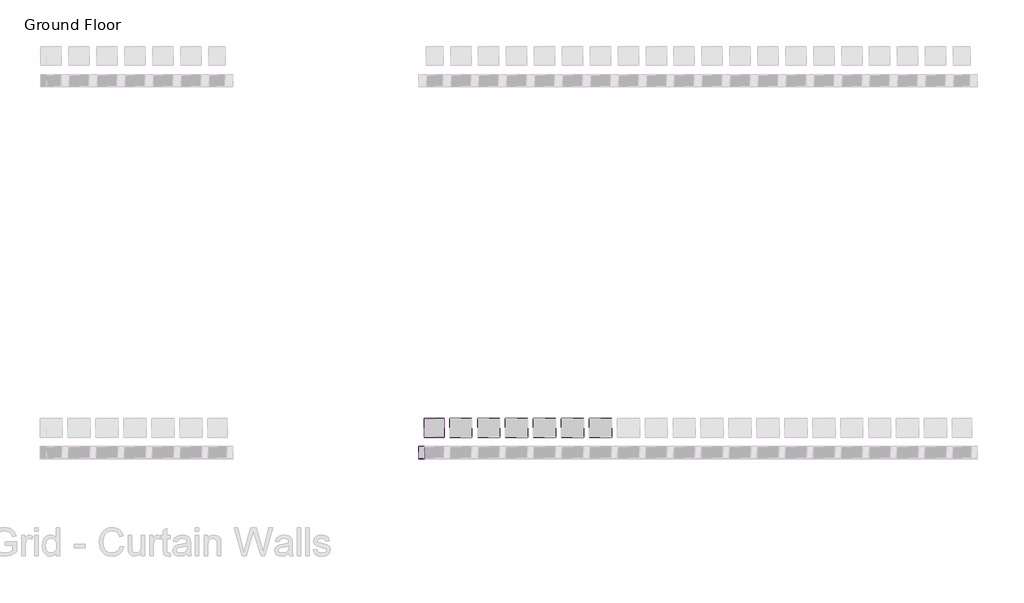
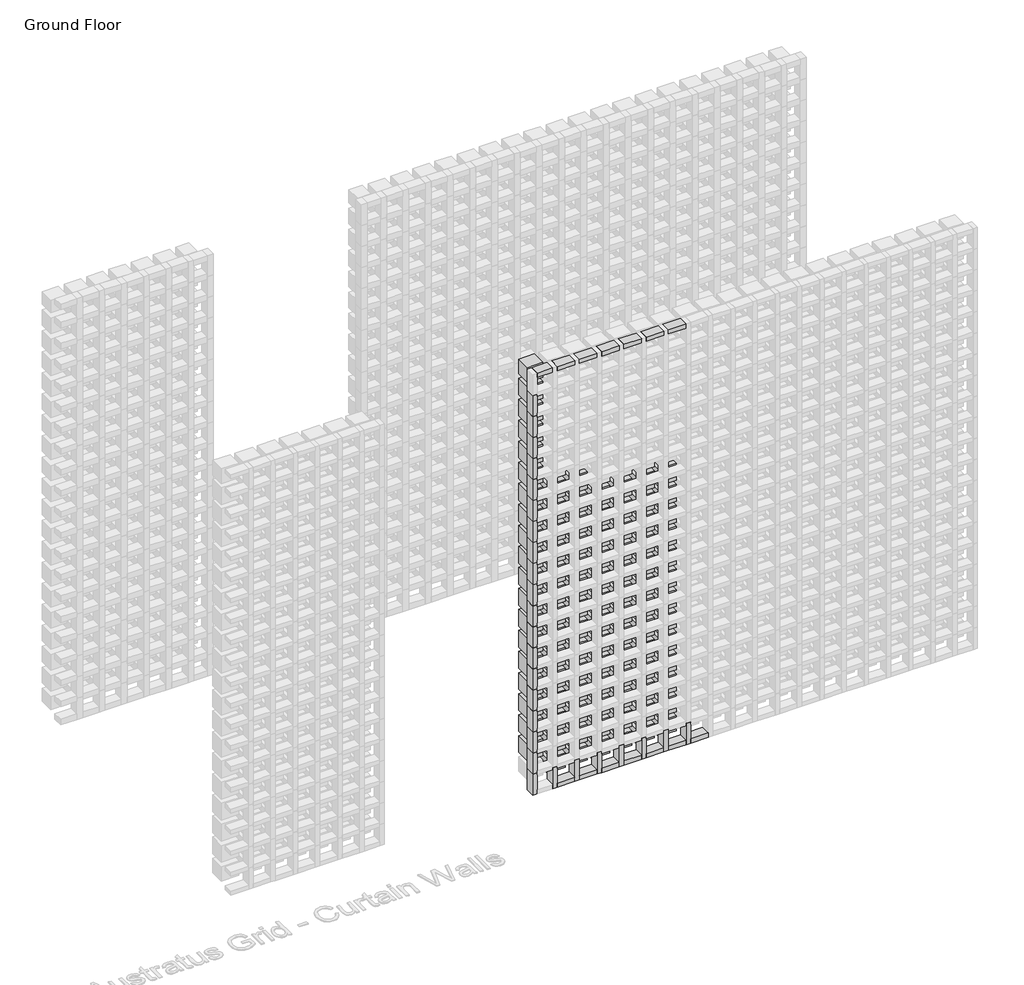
# One storey, part 55 of 350: 99 plates, 40 members.
"""IFC4 building model written with IfcOpenShell, lengths in millimetres."""

from ifc_helpers import new_model, si_unit, origin, place, context, project, spatial, transform, mapped, element, save
from components import rectangular_mullion_5b501421, rectangular_mullion_f2fcf417, rectangular_mullion_51467dcc, rectangular_mullion_d4c9a775, rectangular_mullion_ed01f2b6, empty_system_panel_empty_a57e421f, empty_system_panel_empty_2f71b3a5, empty_system_panel_empty_fe50b430, empty_system_panel_empty_7a4fbe29

model = new_model("IFC4")

# Units and contexts
model_context = context("Model", 3, world=origin())
ifc_project = project(units=[si_unit("LENGTHUNIT", "METRE", prefix="MILLI")], contexts=[model_context])

# Site, building, storey
site = spatial("IfcSite", under=ifc_project)
building = spatial("IfcBuilding", under=site)
storey = spatial("IfcBuildingStorey", under=building, Name="Ground Floor", Elevation=0.0)

# Members
placement = place(None, origin())
rectangular_mullion_shape = rectangular_mullion_5b501421(model_context)
element("IfcMember", 1, ObjectType="Rectangular Mullion : Batten_Timber_Modinex_Austratus_Grid_Fascia_30x65_Blackbutt", at=placement, inside=storey, context=model_context, shape_type="MappedRepresentation", body=[
    mapped(rectangular_mullion_shape, transform((6066.4361642, 38968.2978302, 0.0), x_axis=(1.0, 0.0, 0.0), y_axis=(0.0, -1.0, 0.0), z_axis=(0.0, 0.0, -1.0))),
])
element("IfcMember", 2, ObjectType="Rectangular Mullion : Batten_Timber_Modinex_Austratus_Grid_Fascia_30x65_Blackbutt", at=placement, inside=storey, context=model_context, shape_type="MappedRepresentation", body=[
    mapped(rectangular_mullion_shape, transform((6216.4361642, 38968.2978302, 0.0), x_axis=(1.0, 0.0, 0.0), y_axis=(0.0, -1.0, 0.0), z_axis=(0.0, 0.0, -1.0))),
])
element("IfcMember", 3, ObjectType="Rectangular Mullion : Batten_Timber_Modinex_Austratus_Grid_Fascia_30x65_Blackbutt", at=placement, inside=storey, context=model_context, shape_type="MappedRepresentation", body=[
    mapped(rectangular_mullion_shape, transform((6366.4361642, 38968.2978302, 0.0), x_axis=(1.0, 0.0, 0.0), y_axis=(0.0, -1.0, 0.0), z_axis=(0.0, 0.0, -1.0))),
])
element("IfcMember", 4, ObjectType="Rectangular Mullion : Batten_Timber_Modinex_Austratus_Grid_Fascia_30x65_Blackbutt", at=placement, inside=storey, context=model_context, shape_type="MappedRepresentation", body=[
    mapped(rectangular_mullion_shape, transform((6516.4361642, 38968.2978302, 0.0), x_axis=(1.0, 0.0, 0.0), y_axis=(0.0, -1.0, 0.0), z_axis=(0.0, 0.0, -1.0))),
])
element("IfcMember", 5, ObjectType="Rectangular Mullion : Batten_Timber_Modinex_Austratus_Grid_Fascia_30x65_Blackbutt", at=placement, inside=storey, context=model_context, shape_type="MappedRepresentation", body=[
    mapped(rectangular_mullion_shape, transform((6666.4361642, 38968.2978302, 0.0), x_axis=(1.0, 0.0, 0.0), y_axis=(0.0, -1.0, 0.0), z_axis=(0.0, 0.0, -1.0))),
])
element("IfcMember", 6, ObjectType="Rectangular Mullion : Batten_Timber_Modinex_Austratus_Grid_Fascia_30x65_Blackbutt", at=placement, inside=storey, context=model_context, shape_type="MappedRepresentation", body=[
    mapped(rectangular_mullion_shape, transform((6816.4361642, 38968.2978302, 0.0), x_axis=(1.0, 0.0, 0.0), y_axis=(0.0, -1.0, 0.0), z_axis=(0.0, 0.0, -1.0))),
])
element("IfcMember", 7, ObjectType="Rectangular Mullion : Batten_Timber_Modinex_Austratus_Grid_Fascia_30x65_Blackbutt", at=placement, inside=storey, context=model_context, shape_type="MappedRepresentation", body=[
    mapped(rectangular_mullion_shape, transform((6966.4361642, 38968.2978302, 0.0), x_axis=(1.0, 0.0, 0.0), y_axis=(0.0, -1.0, 0.0), z_axis=(0.0, 0.0, -1.0))),
])
rectangular_mullion_2_shape = rectangular_mullion_f2fcf417(model_context)
element("IfcMember", 8, ObjectType="Rectangular Mullion : Batten_Timber_Modinex_Austratus_Grid_Fascia_30x65_Blackbutt", at=placement, inside=storey, context=model_context, shape_type="MappedRepresentation", body=[
    mapped(rectangular_mullion_2_shape, transform((6051.4361642, 38968.2978302, 3000.0), x_axis=(0.0, 0.0, 1.0), y_axis=(0.0, -1.0, 0.0), z_axis=(1.0, 0.0, 0.0))),
])
rectangular_mullion_3_shape = rectangular_mullion_51467dcc(model_context)
element("IfcMember", 9, ObjectType="Rectangular Mullion : Batten_Timber_Modinex_Austratus_Grid_Fascia_30x65_Blackbutt", at=placement, inside=storey, context=model_context, shape_type="MappedRepresentation", body=[
    mapped(rectangular_mullion_3_shape, transform((6201.4361642, 38968.2978302, 3000.0), x_axis=(0.0, 0.0, 1.0), y_axis=(0.0, -1.0, 0.0), z_axis=(1.0, 0.0, 0.0))),
])
element("IfcMember", 10, ObjectType="Rectangular Mullion : Batten_Timber_Modinex_Austratus_Grid_Fascia_30x65_Blackbutt", at=placement, inside=storey, context=model_context, shape_type="MappedRepresentation", body=[
    mapped(rectangular_mullion_3_shape, transform((6351.4361642, 38968.2978302, 3000.0), x_axis=(0.0, 0.0, 1.0), y_axis=(0.0, -1.0, 0.0), z_axis=(1.0, 0.0, 0.0))),
])
element("IfcMember", 11, ObjectType="Rectangular Mullion : Batten_Timber_Modinex_Austratus_Grid_Fascia_30x65_Blackbutt", at=placement, inside=storey, context=model_context, shape_type="MappedRepresentation", body=[
    mapped(rectangular_mullion_3_shape, transform((6501.4361642, 38968.2978302, 3000.0), x_axis=(0.0, 0.0, 1.0), y_axis=(0.0, -1.0, 0.0), z_axis=(1.0, 0.0, 0.0))),
])
element("IfcMember", 12, ObjectType="Rectangular Mullion : Batten_Timber_Modinex_Austratus_Grid_Fascia_30x65_Blackbutt", at=placement, inside=storey, context=model_context, shape_type="MappedRepresentation", body=[
    mapped(rectangular_mullion_3_shape, transform((6651.4361642, 38968.2978302, 3000.0), x_axis=(0.0, 0.0, 1.0), y_axis=(0.0, -1.0, 0.0), z_axis=(1.0, 0.0, 0.0))),
])
element("IfcMember", 13, ObjectType="Rectangular Mullion : Batten_Timber_Modinex_Austratus_Grid_Fascia_30x65_Blackbutt", at=placement, inside=storey, context=model_context, shape_type="MappedRepresentation", body=[
    mapped(rectangular_mullion_3_shape, transform((6801.4361642, 38968.2978302, 3000.0), x_axis=(0.0, 0.0, 1.0), y_axis=(0.0, -1.0, 0.0), z_axis=(1.0, 0.0, 0.0))),
])
element("IfcMember", 14, ObjectType="Rectangular Mullion : Batten_Timber_Modinex_Austratus_Grid_Fascia_30x65_Blackbutt", at=placement, inside=storey, context=model_context, shape_type="MappedRepresentation", body=[
    mapped(rectangular_mullion_3_shape, transform((6951.4361642, 38968.2978302, 3000.0), x_axis=(0.0, 0.0, 1.0), y_axis=(0.0, -1.0, 0.0), z_axis=(1.0, 0.0, 0.0))),
])
rectangular_mullion_4_shape = rectangular_mullion_d4c9a775(model_context)
element("IfcMember", 15, ObjectType="Rectangular Mullion : Batten_Timber_Modinex_Austratus_Grid_Fascia_30x65_Blackbutt", at=placement, inside=storey, context=model_context, shape_type="MappedRepresentation", body=[
    mapped(rectangular_mullion_4_shape, transform((6081.4361642, 38968.2978302, 0.0), x_axis=(0.0, 0.0, -1.0), y_axis=(0.0, -1.0, 0.0), z_axis=(-1.0, 0.0, 0.0))),
])
element("IfcMember", 16, ObjectType="Rectangular Mullion : Batten_Timber_Modinex_Austratus_Grid_Fascia_30x65_Blackbutt", at=placement, inside=storey, context=model_context, shape_type="MappedRepresentation", body=[
    mapped(rectangular_mullion_4_shape, transform((6231.4361642, 38968.2978302, 0.0), x_axis=(0.0, 0.0, -1.0), y_axis=(0.0, -1.0, 0.0), z_axis=(-1.0, 0.0, 0.0))),
])
element("IfcMember", 17, ObjectType="Rectangular Mullion : Batten_Timber_Modinex_Austratus_Grid_Fascia_30x65_Blackbutt", at=placement, inside=storey, context=model_context, shape_type="MappedRepresentation", body=[
    mapped(rectangular_mullion_4_shape, transform((6381.4361642, 38968.2978302, 0.0), x_axis=(0.0, 0.0, -1.0), y_axis=(0.0, -1.0, 0.0), z_axis=(-1.0, 0.0, 0.0))),
])
element("IfcMember", 18, ObjectType="Rectangular Mullion : Batten_Timber_Modinex_Austratus_Grid_Fascia_30x65_Blackbutt", at=placement, inside=storey, context=model_context, shape_type="MappedRepresentation", body=[
    mapped(rectangular_mullion_4_shape, transform((6531.4361642, 38968.2978302, 0.0), x_axis=(0.0, 0.0, -1.0), y_axis=(0.0, -1.0, 0.0), z_axis=(-1.0, 0.0, 0.0))),
])
element("IfcMember", 19, ObjectType="Rectangular Mullion : Batten_Timber_Modinex_Austratus_Grid_Fascia_30x65_Blackbutt", at=placement, inside=storey, context=model_context, shape_type="MappedRepresentation", body=[
    mapped(rectangular_mullion_4_shape, transform((6681.4361642, 38968.2978302, 0.0), x_axis=(0.0, 0.0, -1.0), y_axis=(0.0, -1.0, 0.0), z_axis=(-1.0, 0.0, 0.0))),
])
element("IfcMember", 20, ObjectType="Rectangular Mullion : Batten_Timber_Modinex_Austratus_Grid_Fascia_30x65_Blackbutt", at=placement, inside=storey, context=model_context, shape_type="MappedRepresentation", body=[
    mapped(rectangular_mullion_4_shape, transform((6831.4361642, 38968.2978302, 0.0), x_axis=(0.0, 0.0, -1.0), y_axis=(0.0, -1.0, 0.0), z_axis=(-1.0, 0.0, 0.0))),
])
element("IfcMember", 21, ObjectType="Rectangular Mullion : Batten_Timber_Modinex_Austratus_Grid_Fascia_30x65_Blackbutt", at=placement, inside=storey, context=model_context, shape_type="MappedRepresentation", body=[
    mapped(rectangular_mullion_4_shape, transform((6981.4361642, 38968.2978302, 0.0), x_axis=(0.0, 0.0, -1.0), y_axis=(0.0, -1.0, 0.0), z_axis=(-1.0, 0.0, 0.0))),
])
rectangular_mullion_5_shape = rectangular_mullion_ed01f2b6(model_context)
element("IfcMember", 22, ObjectType="Rectangular Mullion : Batten_Timber_Modinex_Austratus_Grid_Fascia_30x65_Blackbutt", at=placement, inside=storey, context=model_context, shape_type="MappedRepresentation", body=[
    mapped(rectangular_mullion_5_shape, transform((5916.4361639, 38968.2978302, 150.0), x_axis=(-1.0, 0.0, 0.0), y_axis=(0.0, -1.0, 0.0), z_axis=(0.0, 0.0, 1.0))),
])
element("IfcMember", 23, ObjectType="Rectangular Mullion : Batten_Timber_Modinex_Austratus_Grid_Fascia_30x65_Blackbutt", at=placement, inside=storey, context=model_context, shape_type="MappedRepresentation", body=[
    mapped(rectangular_mullion_5_shape, transform((5916.4361639, 38968.2978302, 300.0), x_axis=(-1.0, 0.0, 0.0), y_axis=(0.0, -1.0, 0.0), z_axis=(0.0, 0.0, 1.0))),
])
element("IfcMember", 24, ObjectType="Rectangular Mullion : Batten_Timber_Modinex_Austratus_Grid_Fascia_30x65_Blackbutt", at=placement, inside=storey, context=model_context, shape_type="MappedRepresentation", body=[
    mapped(rectangular_mullion_5_shape, transform((5916.4361639, 38968.2978302, 450.0), x_axis=(-1.0, 0.0, 0.0), y_axis=(0.0, -1.0, 0.0), z_axis=(0.0, 0.0, 1.0))),
])
element("IfcMember", 25, ObjectType="Rectangular Mullion : Batten_Timber_Modinex_Austratus_Grid_Fascia_30x65_Blackbutt", at=placement, inside=storey, context=model_context, shape_type="MappedRepresentation", body=[
    mapped(rectangular_mullion_5_shape, transform((5916.4361639, 38968.2978302, 600.0), x_axis=(-1.0, 0.0, 0.0), y_axis=(0.0, -1.0, 0.0), z_axis=(0.0, 0.0, 1.0))),
])
element("IfcMember", 26, ObjectType="Rectangular Mullion : Batten_Timber_Modinex_Austratus_Grid_Fascia_30x65_Blackbutt", at=placement, inside=storey, context=model_context, shape_type="MappedRepresentation", body=[
    mapped(rectangular_mullion_5_shape, transform((5916.4361639, 38968.2978302, 750.0), x_axis=(-1.0, 0.0, 0.0), y_axis=(0.0, -1.0, 0.0), z_axis=(0.0, 0.0, 1.0))),
])
element("IfcMember", 27, ObjectType="Rectangular Mullion : Batten_Timber_Modinex_Austratus_Grid_Fascia_30x65_Blackbutt", at=placement, inside=storey, context=model_context, shape_type="MappedRepresentation", body=[
    mapped(rectangular_mullion_5_shape, transform((5916.4361639, 38968.2978302, 900.0), x_axis=(-1.0, 0.0, 0.0), y_axis=(0.0, -1.0, 0.0), z_axis=(0.0, 0.0, 1.0))),
])
element("IfcMember", 28, ObjectType="Rectangular Mullion : Batten_Timber_Modinex_Austratus_Grid_Fascia_30x65_Blackbutt", at=placement, inside=storey, context=model_context, shape_type="MappedRepresentation", body=[
    mapped(rectangular_mullion_5_shape, transform((5916.4361639, 38968.2978302, 1050.0), x_axis=(-1.0, 0.0, 0.0), y_axis=(0.0, -1.0, 0.0), z_axis=(0.0, 0.0, 1.0))),
])
element("IfcMember", 29, ObjectType="Rectangular Mullion : Batten_Timber_Modinex_Austratus_Grid_Fascia_30x65_Blackbutt", at=placement, inside=storey, context=model_context, shape_type="MappedRepresentation", body=[
    mapped(rectangular_mullion_5_shape, transform((5916.4361639, 38968.2978302, 1200.0), x_axis=(-1.0, 0.0, 0.0), y_axis=(0.0, -1.0, 0.0), z_axis=(0.0, 0.0, 1.0))),
])
element("IfcMember", 30, ObjectType="Rectangular Mullion : Batten_Timber_Modinex_Austratus_Grid_Fascia_30x65_Blackbutt", at=placement, inside=storey, context=model_context, shape_type="MappedRepresentation", body=[
    mapped(rectangular_mullion_5_shape, transform((5916.4361639, 38968.2978302, 1350.0), x_axis=(-1.0, 0.0, 0.0), y_axis=(0.0, -1.0, 0.0), z_axis=(0.0, 0.0, 1.0))),
])
element("IfcMember", 31, ObjectType="Rectangular Mullion : Batten_Timber_Modinex_Austratus_Grid_Fascia_30x65_Blackbutt", at=placement, inside=storey, context=model_context, shape_type="MappedRepresentation", body=[
    mapped(rectangular_mullion_5_shape, transform((5916.4361639, 38968.2978302, 1500.0), x_axis=(-1.0, 0.0, 0.0), y_axis=(0.0, -1.0, 0.0), z_axis=(0.0, 0.0, 1.0))),
])
element("IfcMember", 32, ObjectType="Rectangular Mullion : Batten_Timber_Modinex_Austratus_Grid_Fascia_30x65_Blackbutt", at=placement, inside=storey, context=model_context, shape_type="MappedRepresentation", body=[
    mapped(rectangular_mullion_5_shape, transform((5916.4361639, 38968.2978302, 1650.0), x_axis=(-1.0, 0.0, 0.0), y_axis=(0.0, -1.0, 0.0), z_axis=(0.0, 0.0, 1.0))),
])
element("IfcMember", 33, ObjectType="Rectangular Mullion : Batten_Timber_Modinex_Austratus_Grid_Fascia_30x65_Blackbutt", at=placement, inside=storey, context=model_context, shape_type="MappedRepresentation", body=[
    mapped(rectangular_mullion_5_shape, transform((5916.4361639, 38968.2978302, 1800.0), x_axis=(-1.0, 0.0, 0.0), y_axis=(0.0, -1.0, 0.0), z_axis=(0.0, 0.0, 1.0))),
])
element("IfcMember", 34, ObjectType="Rectangular Mullion : Batten_Timber_Modinex_Austratus_Grid_Fascia_30x65_Blackbutt", at=placement, inside=storey, context=model_context, shape_type="MappedRepresentation", body=[
    mapped(rectangular_mullion_5_shape, transform((5916.4361639, 38968.2978302, 1950.0), x_axis=(-1.0, 0.0, 0.0), y_axis=(0.0, -1.0, 0.0), z_axis=(0.0, 0.0, 1.0))),
])
element("IfcMember", 35, ObjectType="Rectangular Mullion : Batten_Timber_Modinex_Austratus_Grid_Fascia_30x65_Blackbutt", at=placement, inside=storey, context=model_context, shape_type="MappedRepresentation", body=[
    mapped(rectangular_mullion_5_shape, transform((5916.4361639, 38968.2978302, 2100.0), x_axis=(-1.0, 0.0, 0.0), y_axis=(0.0, -1.0, 0.0), z_axis=(0.0, 0.0, 1.0))),
])
element("IfcMember", 36, ObjectType="Rectangular Mullion : Batten_Timber_Modinex_Austratus_Grid_Fascia_30x65_Blackbutt", at=placement, inside=storey, context=model_context, shape_type="MappedRepresentation", body=[
    mapped(rectangular_mullion_5_shape, transform((5916.4361639, 38968.2978302, 2250.0), x_axis=(-1.0, 0.0, 0.0), y_axis=(0.0, -1.0, 0.0), z_axis=(0.0, 0.0, 1.0))),
])
element("IfcMember", 37, ObjectType="Rectangular Mullion : Batten_Timber_Modinex_Austratus_Grid_Fascia_30x65_Blackbutt", at=placement, inside=storey, context=model_context, shape_type="MappedRepresentation", body=[
    mapped(rectangular_mullion_5_shape, transform((5916.4361639, 38968.2978302, 2400.0), x_axis=(-1.0, 0.0, 0.0), y_axis=(0.0, -1.0, 0.0), z_axis=(0.0, 0.0, 1.0))),
])
element("IfcMember", 38, ObjectType="Rectangular Mullion : Batten_Timber_Modinex_Austratus_Grid_Fascia_30x65_Blackbutt", at=placement, inside=storey, context=model_context, shape_type="MappedRepresentation", body=[
    mapped(rectangular_mullion_5_shape, transform((5916.4361639, 38968.2978302, 2550.0), x_axis=(-1.0, 0.0, 0.0), y_axis=(0.0, -1.0, 0.0), z_axis=(0.0, 0.0, 1.0))),
])
element("IfcMember", 39, ObjectType="Rectangular Mullion : Batten_Timber_Modinex_Austratus_Grid_Fascia_30x65_Blackbutt", at=placement, inside=storey, context=model_context, shape_type="MappedRepresentation", body=[
    mapped(rectangular_mullion_5_shape, transform((5916.4361639, 38968.2978302, 2700.0), x_axis=(-1.0, 0.0, 0.0), y_axis=(0.0, -1.0, 0.0), z_axis=(0.0, 0.0, 1.0))),
])
element("IfcMember", 40, ObjectType="Rectangular Mullion : Batten_Timber_Modinex_Austratus_Grid_Fascia_30x65_Blackbutt", at=placement, inside=storey, context=model_context, shape_type="MappedRepresentation", body=[
    mapped(rectangular_mullion_5_shape, transform((5916.4361639, 38968.2978302, 2850.0), x_axis=(-1.0, 0.0, 0.0), y_axis=(0.0, -1.0, 0.0), z_axis=(0.0, 0.0, 1.0))),
])

# Plates
empty_system_panel_empty_shape = empty_system_panel_empty_a57e421f(model_context)
element("IfcPlate", 41, ObjectType="Empty System Panel : Empty", at=placement, inside=storey, context=model_context, shape_type="MappedRepresentation", body=[
    mapped(empty_system_panel_empty_shape, transform((6141.4361642, 38968.2978302, 165.0), x_axis=(1.0, 0.0, 0.0), y_axis=(0.0, 1.0, 0.0), z_axis=(0.0, 0.0, 1.0))),
])
element("IfcPlate", 42, ObjectType="Empty System Panel : Empty", at=placement, inside=storey, context=model_context, shape_type="MappedRepresentation", body=[
    mapped(empty_system_panel_empty_shape, transform((6291.4361642, 38968.2978302, 165.0), x_axis=(1.0, 0.0, 0.0), y_axis=(0.0, 1.0, 0.0), z_axis=(0.0, 0.0, 1.0))),
])
element("IfcPlate", 43, ObjectType="Empty System Panel : Empty", at=placement, inside=storey, context=model_context, shape_type="MappedRepresentation", body=[
    mapped(empty_system_panel_empty_shape, transform((6441.4361642, 38968.2978302, 165.0), x_axis=(1.0, 0.0, 0.0), y_axis=(0.0, 1.0, 0.0), z_axis=(0.0, 0.0, 1.0))),
])
element("IfcPlate", 44, ObjectType="Empty System Panel : Empty", at=placement, inside=storey, context=model_context, shape_type="MappedRepresentation", body=[
    mapped(empty_system_panel_empty_shape, transform((6591.4361642, 38968.2978302, 165.0), x_axis=(1.0, 0.0, 0.0), y_axis=(0.0, 1.0, 0.0), z_axis=(0.0, 0.0, 1.0))),
])
element("IfcPlate", 45, ObjectType="Empty System Panel : Empty", at=placement, inside=storey, context=model_context, shape_type="MappedRepresentation", body=[
    mapped(empty_system_panel_empty_shape, transform((6741.4361642, 38968.2978302, 165.0), x_axis=(1.0, 0.0, 0.0), y_axis=(0.0, 1.0, 0.0), z_axis=(0.0, 0.0, 1.0))),
])
element("IfcPlate", 46, ObjectType="Empty System Panel : Empty", at=placement, inside=storey, context=model_context, shape_type="MappedRepresentation", body=[
    mapped(empty_system_panel_empty_shape, transform((6891.4361642, 38968.2978302, 165.0), x_axis=(1.0, 0.0, 0.0), y_axis=(0.0, 1.0, 0.0), z_axis=(0.0, 0.0, 1.0))),
])
element("IfcPlate", 47, ObjectType="Empty System Panel : Empty", at=placement, inside=storey, context=model_context, shape_type="MappedRepresentation", body=[
    mapped(empty_system_panel_empty_shape, transform((6141.4361642, 38968.2978302, 315.0), x_axis=(1.0, 0.0, 0.0), y_axis=(0.0, 1.0, 0.0), z_axis=(0.0, 0.0, 1.0))),
])
element("IfcPlate", 48, ObjectType="Empty System Panel : Empty", at=placement, inside=storey, context=model_context, shape_type="MappedRepresentation", body=[
    mapped(empty_system_panel_empty_shape, transform((6291.4361642, 38968.2978302, 315.0), x_axis=(1.0, 0.0, 0.0), y_axis=(0.0, 1.0, 0.0), z_axis=(0.0, 0.0, 1.0))),
])
element("IfcPlate", 49, ObjectType="Empty System Panel : Empty", at=placement, inside=storey, context=model_context, shape_type="MappedRepresentation", body=[
    mapped(empty_system_panel_empty_shape, transform((6441.4361642, 38968.2978302, 315.0), x_axis=(1.0, 0.0, 0.0), y_axis=(0.0, 1.0, 0.0), z_axis=(0.0, 0.0, 1.0))),
])
element("IfcPlate", 50, ObjectType="Empty System Panel : Empty", at=placement, inside=storey, context=model_context, shape_type="MappedRepresentation", body=[
    mapped(empty_system_panel_empty_shape, transform((6591.4361642, 38968.2978302, 315.0), x_axis=(1.0, 0.0, 0.0), y_axis=(0.0, 1.0, 0.0), z_axis=(0.0, 0.0, 1.0))),
])
element("IfcPlate", 51, ObjectType="Empty System Panel : Empty", at=placement, inside=storey, context=model_context, shape_type="MappedRepresentation", body=[
    mapped(empty_system_panel_empty_shape, transform((6741.4361642, 38968.2978302, 315.0), x_axis=(1.0, 0.0, 0.0), y_axis=(0.0, 1.0, 0.0), z_axis=(0.0, 0.0, 1.0))),
])
element("IfcPlate", 52, ObjectType="Empty System Panel : Empty", at=placement, inside=storey, context=model_context, shape_type="MappedRepresentation", body=[
    mapped(empty_system_panel_empty_shape, transform((6891.4361642, 38968.2978302, 315.0), x_axis=(1.0, 0.0, 0.0), y_axis=(0.0, 1.0, 0.0), z_axis=(0.0, 0.0, 1.0))),
])
element("IfcPlate", 53, ObjectType="Empty System Panel : Empty", at=placement, inside=storey, context=model_context, shape_type="MappedRepresentation", body=[
    mapped(empty_system_panel_empty_shape, transform((6141.4361642, 38968.2978302, 465.0), x_axis=(1.0, 0.0, 0.0), y_axis=(0.0, 1.0, 0.0), z_axis=(0.0, 0.0, 1.0))),
])
element("IfcPlate", 54, ObjectType="Empty System Panel : Empty", at=placement, inside=storey, context=model_context, shape_type="MappedRepresentation", body=[
    mapped(empty_system_panel_empty_shape, transform((6291.4361642, 38968.2978302, 465.0), x_axis=(1.0, 0.0, 0.0), y_axis=(0.0, 1.0, 0.0), z_axis=(0.0, 0.0, 1.0))),
])
element("IfcPlate", 55, ObjectType="Empty System Panel : Empty", at=placement, inside=storey, context=model_context, shape_type="MappedRepresentation", body=[
    mapped(empty_system_panel_empty_shape, transform((6441.4361642, 38968.2978302, 465.0), x_axis=(1.0, 0.0, 0.0), y_axis=(0.0, 1.0, 0.0), z_axis=(0.0, 0.0, 1.0))),
])
element("IfcPlate", 56, ObjectType="Empty System Panel : Empty", at=placement, inside=storey, context=model_context, shape_type="MappedRepresentation", body=[
    mapped(empty_system_panel_empty_shape, transform((6591.4361642, 38968.2978302, 465.0), x_axis=(1.0, 0.0, 0.0), y_axis=(0.0, 1.0, 0.0), z_axis=(0.0, 0.0, 1.0))),
])
element("IfcPlate", 57, ObjectType="Empty System Panel : Empty", at=placement, inside=storey, context=model_context, shape_type="MappedRepresentation", body=[
    mapped(empty_system_panel_empty_shape, transform((6741.4361642, 38968.2978302, 465.0), x_axis=(1.0, 0.0, 0.0), y_axis=(0.0, 1.0, 0.0), z_axis=(0.0, 0.0, 1.0))),
])
element("IfcPlate", 58, ObjectType="Empty System Panel : Empty", at=placement, inside=storey, context=model_context, shape_type="MappedRepresentation", body=[
    mapped(empty_system_panel_empty_shape, transform((6891.4361642, 38968.2978302, 465.0), x_axis=(1.0, 0.0, 0.0), y_axis=(0.0, 1.0, 0.0), z_axis=(0.0, 0.0, 1.0))),
])
element("IfcPlate", 59, ObjectType="Empty System Panel : Empty", at=placement, inside=storey, context=model_context, shape_type="MappedRepresentation", body=[
    mapped(empty_system_panel_empty_shape, transform((6141.4361642, 38968.2978302, 615.0), x_axis=(1.0, 0.0, 0.0), y_axis=(0.0, 1.0, 0.0), z_axis=(0.0, 0.0, 1.0))),
])
element("IfcPlate", 60, ObjectType="Empty System Panel : Empty", at=placement, inside=storey, context=model_context, shape_type="MappedRepresentation", body=[
    mapped(empty_system_panel_empty_shape, transform((6291.4361642, 38968.2978302, 615.0), x_axis=(1.0, 0.0, 0.0), y_axis=(0.0, 1.0, 0.0), z_axis=(0.0, 0.0, 1.0))),
])
element("IfcPlate", 61, ObjectType="Empty System Panel : Empty", at=placement, inside=storey, context=model_context, shape_type="MappedRepresentation", body=[
    mapped(empty_system_panel_empty_shape, transform((6441.4361642, 38968.2978302, 615.0), x_axis=(1.0, 0.0, 0.0), y_axis=(0.0, 1.0, 0.0), z_axis=(0.0, 0.0, 1.0))),
])
element("IfcPlate", 62, ObjectType="Empty System Panel : Empty", at=placement, inside=storey, context=model_context, shape_type="MappedRepresentation", body=[
    mapped(empty_system_panel_empty_shape, transform((6591.4361642, 38968.2978302, 615.0), x_axis=(1.0, 0.0, 0.0), y_axis=(0.0, 1.0, 0.0), z_axis=(0.0, 0.0, 1.0))),
])
element("IfcPlate", 63, ObjectType="Empty System Panel : Empty", at=placement, inside=storey, context=model_context, shape_type="MappedRepresentation", body=[
    mapped(empty_system_panel_empty_shape, transform((6741.4361642, 38968.2978302, 615.0), x_axis=(1.0, 0.0, 0.0), y_axis=(0.0, 1.0, 0.0), z_axis=(0.0, 0.0, 1.0))),
])
element("IfcPlate", 64, ObjectType="Empty System Panel : Empty", at=placement, inside=storey, context=model_context, shape_type="MappedRepresentation", body=[
    mapped(empty_system_panel_empty_shape, transform((6891.4361642, 38968.2978302, 615.0), x_axis=(1.0, 0.0, 0.0), y_axis=(0.0, 1.0, 0.0), z_axis=(0.0, 0.0, 1.0))),
])
element("IfcPlate", 65, ObjectType="Empty System Panel : Empty", at=placement, inside=storey, context=model_context, shape_type="MappedRepresentation", body=[
    mapped(empty_system_panel_empty_shape, transform((6141.4361642, 38968.2978302, 765.0), x_axis=(1.0, 0.0, 0.0), y_axis=(0.0, 1.0, 0.0), z_axis=(0.0, 0.0, 1.0))),
])
element("IfcPlate", 66, ObjectType="Empty System Panel : Empty", at=placement, inside=storey, context=model_context, shape_type="MappedRepresentation", body=[
    mapped(empty_system_panel_empty_shape, transform((6291.4361642, 38968.2978302, 765.0), x_axis=(1.0, 0.0, 0.0), y_axis=(0.0, 1.0, 0.0), z_axis=(0.0, 0.0, 1.0))),
])
element("IfcPlate", 67, ObjectType="Empty System Panel : Empty", at=placement, inside=storey, context=model_context, shape_type="MappedRepresentation", body=[
    mapped(empty_system_panel_empty_shape, transform((6441.4361642, 38968.2978302, 765.0), x_axis=(1.0, 0.0, 0.0), y_axis=(0.0, 1.0, 0.0), z_axis=(0.0, 0.0, 1.0))),
])
element("IfcPlate", 68, ObjectType="Empty System Panel : Empty", at=placement, inside=storey, context=model_context, shape_type="MappedRepresentation", body=[
    mapped(empty_system_panel_empty_shape, transform((6591.4361642, 38968.2978302, 765.0), x_axis=(1.0, 0.0, 0.0), y_axis=(0.0, 1.0, 0.0), z_axis=(0.0, 0.0, 1.0))),
])
element("IfcPlate", 69, ObjectType="Empty System Panel : Empty", at=placement, inside=storey, context=model_context, shape_type="MappedRepresentation", body=[
    mapped(empty_system_panel_empty_shape, transform((6741.4361642, 38968.2978302, 765.0), x_axis=(1.0, 0.0, 0.0), y_axis=(0.0, 1.0, 0.0), z_axis=(0.0, 0.0, 1.0))),
])
element("IfcPlate", 70, ObjectType="Empty System Panel : Empty", at=placement, inside=storey, context=model_context, shape_type="MappedRepresentation", body=[
    mapped(empty_system_panel_empty_shape, transform((6891.4361642, 38968.2978302, 765.0), x_axis=(1.0, 0.0, 0.0), y_axis=(0.0, 1.0, 0.0), z_axis=(0.0, 0.0, 1.0))),
])
element("IfcPlate", 71, ObjectType="Empty System Panel : Empty", at=placement, inside=storey, context=model_context, shape_type="MappedRepresentation", body=[
    mapped(empty_system_panel_empty_shape, transform((6141.4361642, 38968.2978302, 915.0), x_axis=(1.0, 0.0, 0.0), y_axis=(0.0, 1.0, 0.0), z_axis=(0.0, 0.0, 1.0))),
])
element("IfcPlate", 72, ObjectType="Empty System Panel : Empty", at=placement, inside=storey, context=model_context, shape_type="MappedRepresentation", body=[
    mapped(empty_system_panel_empty_shape, transform((6291.4361642, 38968.2978302, 915.0), x_axis=(1.0, 0.0, 0.0), y_axis=(0.0, 1.0, 0.0), z_axis=(0.0, 0.0, 1.0))),
])
element("IfcPlate", 73, ObjectType="Empty System Panel : Empty", at=placement, inside=storey, context=model_context, shape_type="MappedRepresentation", body=[
    mapped(empty_system_panel_empty_shape, transform((6441.4361642, 38968.2978302, 915.0), x_axis=(1.0, 0.0, 0.0), y_axis=(0.0, 1.0, 0.0), z_axis=(0.0, 0.0, 1.0))),
])
element("IfcPlate", 74, ObjectType="Empty System Panel : Empty", at=placement, inside=storey, context=model_context, shape_type="MappedRepresentation", body=[
    mapped(empty_system_panel_empty_shape, transform((6591.4361642, 38968.2978302, 915.0), x_axis=(1.0, 0.0, 0.0), y_axis=(0.0, 1.0, 0.0), z_axis=(0.0, 0.0, 1.0))),
])
element("IfcPlate", 75, ObjectType="Empty System Panel : Empty", at=placement, inside=storey, context=model_context, shape_type="MappedRepresentation", body=[
    mapped(empty_system_panel_empty_shape, transform((6741.4361642, 38968.2978302, 915.0), x_axis=(1.0, 0.0, 0.0), y_axis=(0.0, 1.0, 0.0), z_axis=(0.0, 0.0, 1.0))),
])
element("IfcPlate", 76, ObjectType="Empty System Panel : Empty", at=placement, inside=storey, context=model_context, shape_type="MappedRepresentation", body=[
    mapped(empty_system_panel_empty_shape, transform((6891.4361642, 38968.2978302, 915.0), x_axis=(1.0, 0.0, 0.0), y_axis=(0.0, 1.0, 0.0), z_axis=(0.0, 0.0, 1.0))),
])
element("IfcPlate", 77, ObjectType="Empty System Panel : Empty", at=placement, inside=storey, context=model_context, shape_type="MappedRepresentation", body=[
    mapped(empty_system_panel_empty_shape, transform((6141.4361642, 38968.2978302, 1065.0), x_axis=(1.0, 0.0, 0.0), y_axis=(0.0, 1.0, 0.0), z_axis=(0.0, 0.0, 1.0))),
])
element("IfcPlate", 78, ObjectType="Empty System Panel : Empty", at=placement, inside=storey, context=model_context, shape_type="MappedRepresentation", body=[
    mapped(empty_system_panel_empty_shape, transform((6291.4361642, 38968.2978302, 1065.0), x_axis=(1.0, 0.0, 0.0), y_axis=(0.0, 1.0, 0.0), z_axis=(0.0, 0.0, 1.0))),
])
element("IfcPlate", 79, ObjectType="Empty System Panel : Empty", at=placement, inside=storey, context=model_context, shape_type="MappedRepresentation", body=[
    mapped(empty_system_panel_empty_shape, transform((6441.4361642, 38968.2978302, 1065.0), x_axis=(1.0, 0.0, 0.0), y_axis=(0.0, 1.0, 0.0), z_axis=(0.0, 0.0, 1.0))),
])
element("IfcPlate", 80, ObjectType="Empty System Panel : Empty", at=placement, inside=storey, context=model_context, shape_type="MappedRepresentation", body=[
    mapped(empty_system_panel_empty_shape, transform((6591.4361642, 38968.2978302, 1065.0), x_axis=(1.0, 0.0, 0.0), y_axis=(0.0, 1.0, 0.0), z_axis=(0.0, 0.0, 1.0))),
])
element("IfcPlate", 81, ObjectType="Empty System Panel : Empty", at=placement, inside=storey, context=model_context, shape_type="MappedRepresentation", body=[
    mapped(empty_system_panel_empty_shape, transform((6741.4361642, 38968.2978302, 1065.0), x_axis=(1.0, 0.0, 0.0), y_axis=(0.0, 1.0, 0.0), z_axis=(0.0, 0.0, 1.0))),
])
element("IfcPlate", 82, ObjectType="Empty System Panel : Empty", at=placement, inside=storey, context=model_context, shape_type="MappedRepresentation", body=[
    mapped(empty_system_panel_empty_shape, transform((6891.4361642, 38968.2978302, 1065.0), x_axis=(1.0, 0.0, 0.0), y_axis=(0.0, 1.0, 0.0), z_axis=(0.0, 0.0, 1.0))),
])
element("IfcPlate", 83, ObjectType="Empty System Panel : Empty", at=placement, inside=storey, context=model_context, shape_type="MappedRepresentation", body=[
    mapped(empty_system_panel_empty_shape, transform((6141.4361642, 38968.2978302, 1215.0), x_axis=(1.0, 0.0, 0.0), y_axis=(0.0, 1.0, 0.0), z_axis=(0.0, 0.0, 1.0))),
])
element("IfcPlate", 84, ObjectType="Empty System Panel : Empty", at=placement, inside=storey, context=model_context, shape_type="MappedRepresentation", body=[
    mapped(empty_system_panel_empty_shape, transform((6291.4361642, 38968.2978302, 1215.0), x_axis=(1.0, 0.0, 0.0), y_axis=(0.0, 1.0, 0.0), z_axis=(0.0, 0.0, 1.0))),
])
element("IfcPlate", 85, ObjectType="Empty System Panel : Empty", at=placement, inside=storey, context=model_context, shape_type="MappedRepresentation", body=[
    mapped(empty_system_panel_empty_shape, transform((6441.4361642, 38968.2978302, 1215.0), x_axis=(1.0, 0.0, 0.0), y_axis=(0.0, 1.0, 0.0), z_axis=(0.0, 0.0, 1.0))),
])
element("IfcPlate", 86, ObjectType="Empty System Panel : Empty", at=placement, inside=storey, context=model_context, shape_type="MappedRepresentation", body=[
    mapped(empty_system_panel_empty_shape, transform((6591.4361642, 38968.2978302, 1215.0), x_axis=(1.0, 0.0, 0.0), y_axis=(0.0, 1.0, 0.0), z_axis=(0.0, 0.0, 1.0))),
])
element("IfcPlate", 87, ObjectType="Empty System Panel : Empty", at=placement, inside=storey, context=model_context, shape_type="MappedRepresentation", body=[
    mapped(empty_system_panel_empty_shape, transform((6741.4361642, 38968.2978302, 1215.0), x_axis=(1.0, 0.0, 0.0), y_axis=(0.0, 1.0, 0.0), z_axis=(0.0, 0.0, 1.0))),
])
element("IfcPlate", 88, ObjectType="Empty System Panel : Empty", at=placement, inside=storey, context=model_context, shape_type="MappedRepresentation", body=[
    mapped(empty_system_panel_empty_shape, transform((6891.4361642, 38968.2978302, 1215.0), x_axis=(1.0, 0.0, 0.0), y_axis=(0.0, 1.0, 0.0), z_axis=(0.0, 0.0, 1.0))),
])
element("IfcPlate", 89, ObjectType="Empty System Panel : Empty", at=placement, inside=storey, context=model_context, shape_type="MappedRepresentation", body=[
    mapped(empty_system_panel_empty_shape, transform((6141.4361642, 38968.2978302, 1365.0), x_axis=(1.0, 0.0, 0.0), y_axis=(0.0, 1.0, 0.0), z_axis=(0.0, 0.0, 1.0))),
])
element("IfcPlate", 90, ObjectType="Empty System Panel : Empty", at=placement, inside=storey, context=model_context, shape_type="MappedRepresentation", body=[
    mapped(empty_system_panel_empty_shape, transform((6291.4361642, 38968.2978302, 1365.0), x_axis=(1.0, 0.0, 0.0), y_axis=(0.0, 1.0, 0.0), z_axis=(0.0, 0.0, 1.0))),
])
element("IfcPlate", 91, ObjectType="Empty System Panel : Empty", at=placement, inside=storey, context=model_context, shape_type="MappedRepresentation", body=[
    mapped(empty_system_panel_empty_shape, transform((6441.4361642, 38968.2978302, 1365.0), x_axis=(1.0, 0.0, 0.0), y_axis=(0.0, 1.0, 0.0), z_axis=(0.0, 0.0, 1.0))),
])
element("IfcPlate", 92, ObjectType="Empty System Panel : Empty", at=placement, inside=storey, context=model_context, shape_type="MappedRepresentation", body=[
    mapped(empty_system_panel_empty_shape, transform((6591.4361642, 38968.2978302, 1365.0), x_axis=(1.0, 0.0, 0.0), y_axis=(0.0, 1.0, 0.0), z_axis=(0.0, 0.0, 1.0))),
])
element("IfcPlate", 93, ObjectType="Empty System Panel : Empty", at=placement, inside=storey, context=model_context, shape_type="MappedRepresentation", body=[
    mapped(empty_system_panel_empty_shape, transform((6741.4361642, 38968.2978302, 1365.0), x_axis=(1.0, 0.0, 0.0), y_axis=(0.0, 1.0, 0.0), z_axis=(0.0, 0.0, 1.0))),
])
element("IfcPlate", 94, ObjectType="Empty System Panel : Empty", at=placement, inside=storey, context=model_context, shape_type="MappedRepresentation", body=[
    mapped(empty_system_panel_empty_shape, transform((6891.4361642, 38968.2978302, 1365.0), x_axis=(1.0, 0.0, 0.0), y_axis=(0.0, 1.0, 0.0), z_axis=(0.0, 0.0, 1.0))),
])
element("IfcPlate", 95, ObjectType="Empty System Panel : Empty", at=placement, inside=storey, context=model_context, shape_type="MappedRepresentation", body=[
    mapped(empty_system_panel_empty_shape, transform((6141.4361642, 38968.2978302, 1515.0), x_axis=(1.0, 0.0, 0.0), y_axis=(0.0, 1.0, 0.0), z_axis=(0.0, 0.0, 1.0))),
])
element("IfcPlate", 96, ObjectType="Empty System Panel : Empty", at=placement, inside=storey, context=model_context, shape_type="MappedRepresentation", body=[
    mapped(empty_system_panel_empty_shape, transform((6291.4361642, 38968.2978302, 1515.0), x_axis=(1.0, 0.0, 0.0), y_axis=(0.0, 1.0, 0.0), z_axis=(0.0, 0.0, 1.0))),
])
element("IfcPlate", 97, ObjectType="Empty System Panel : Empty", at=placement, inside=storey, context=model_context, shape_type="MappedRepresentation", body=[
    mapped(empty_system_panel_empty_shape, transform((6441.4361642, 38968.2978302, 1515.0), x_axis=(1.0, 0.0, 0.0), y_axis=(0.0, 1.0, 0.0), z_axis=(0.0, 0.0, 1.0))),
])
element("IfcPlate", 98, ObjectType="Empty System Panel : Empty", at=placement, inside=storey, context=model_context, shape_type="MappedRepresentation", body=[
    mapped(empty_system_panel_empty_shape, transform((6591.4361642, 38968.2978302, 1515.0), x_axis=(1.0, 0.0, 0.0), y_axis=(0.0, 1.0, 0.0), z_axis=(0.0, 0.0, 1.0))),
])
element("IfcPlate", 99, ObjectType="Empty System Panel : Empty", at=placement, inside=storey, context=model_context, shape_type="MappedRepresentation", body=[
    mapped(empty_system_panel_empty_shape, transform((6741.4361642, 38968.2978302, 1515.0), x_axis=(1.0, 0.0, 0.0), y_axis=(0.0, 1.0, 0.0), z_axis=(0.0, 0.0, 1.0))),
])
element("IfcPlate", 100, ObjectType="Empty System Panel : Empty", at=placement, inside=storey, context=model_context, shape_type="MappedRepresentation", body=[
    mapped(empty_system_panel_empty_shape, transform((6891.4361642, 38968.2978302, 1515.0), x_axis=(1.0, 0.0, 0.0), y_axis=(0.0, 1.0, 0.0), z_axis=(0.0, 0.0, 1.0))),
])
element("IfcPlate", 101, ObjectType="Empty System Panel : Empty", at=placement, inside=storey, context=model_context, shape_type="MappedRepresentation", body=[
    mapped(empty_system_panel_empty_shape, transform((6141.4361642, 38968.2978302, 1665.0), x_axis=(1.0, 0.0, 0.0), y_axis=(0.0, 1.0, 0.0), z_axis=(0.0, 0.0, 1.0))),
])
element("IfcPlate", 102, ObjectType="Empty System Panel : Empty", at=placement, inside=storey, context=model_context, shape_type="MappedRepresentation", body=[
    mapped(empty_system_panel_empty_shape, transform((6291.4361642, 38968.2978302, 1665.0), x_axis=(1.0, 0.0, 0.0), y_axis=(0.0, 1.0, 0.0), z_axis=(0.0, 0.0, 1.0))),
])
element("IfcPlate", 103, ObjectType="Empty System Panel : Empty", at=placement, inside=storey, context=model_context, shape_type="MappedRepresentation", body=[
    mapped(empty_system_panel_empty_shape, transform((6441.4361642, 38968.2978302, 1665.0), x_axis=(1.0, 0.0, 0.0), y_axis=(0.0, 1.0, 0.0), z_axis=(0.0, 0.0, 1.0))),
])
element("IfcPlate", 104, ObjectType="Empty System Panel : Empty", at=placement, inside=storey, context=model_context, shape_type="MappedRepresentation", body=[
    mapped(empty_system_panel_empty_shape, transform((6591.4361642, 38968.2978302, 1665.0), x_axis=(1.0, 0.0, 0.0), y_axis=(0.0, 1.0, 0.0), z_axis=(0.0, 0.0, 1.0))),
])
element("IfcPlate", 105, ObjectType="Empty System Panel : Empty", at=placement, inside=storey, context=model_context, shape_type="MappedRepresentation", body=[
    mapped(empty_system_panel_empty_shape, transform((6741.4361642, 38968.2978302, 1665.0), x_axis=(1.0, 0.0, 0.0), y_axis=(0.0, 1.0, 0.0), z_axis=(0.0, 0.0, 1.0))),
])
element("IfcPlate", 106, ObjectType="Empty System Panel : Empty", at=placement, inside=storey, context=model_context, shape_type="MappedRepresentation", body=[
    mapped(empty_system_panel_empty_shape, transform((6891.4361642, 38968.2978302, 1665.0), x_axis=(1.0, 0.0, 0.0), y_axis=(0.0, 1.0, 0.0), z_axis=(0.0, 0.0, 1.0))),
])
element("IfcPlate", 107, ObjectType="Empty System Panel : Empty", at=placement, inside=storey, context=model_context, shape_type="MappedRepresentation", body=[
    mapped(empty_system_panel_empty_shape, transform((6141.4361642, 38968.2978302, 1815.0), x_axis=(1.0, 0.0, 0.0), y_axis=(0.0, 1.0, 0.0), z_axis=(0.0, 0.0, 1.0))),
])
element("IfcPlate", 108, ObjectType="Empty System Panel : Empty", at=placement, inside=storey, context=model_context, shape_type="MappedRepresentation", body=[
    mapped(empty_system_panel_empty_shape, transform((6291.4361642, 38968.2978302, 1815.0), x_axis=(1.0, 0.0, 0.0), y_axis=(0.0, 1.0, 0.0), z_axis=(0.0, 0.0, 1.0))),
])
element("IfcPlate", 109, ObjectType="Empty System Panel : Empty", at=placement, inside=storey, context=model_context, shape_type="MappedRepresentation", body=[
    mapped(empty_system_panel_empty_shape, transform((6441.4361642, 38968.2978302, 1815.0), x_axis=(1.0, 0.0, 0.0), y_axis=(0.0, 1.0, 0.0), z_axis=(0.0, 0.0, 1.0))),
])
element("IfcPlate", 110, ObjectType="Empty System Panel : Empty", at=placement, inside=storey, context=model_context, shape_type="MappedRepresentation", body=[
    mapped(empty_system_panel_empty_shape, transform((6591.4361642, 38968.2978302, 1815.0), x_axis=(1.0, 0.0, 0.0), y_axis=(0.0, 1.0, 0.0), z_axis=(0.0, 0.0, 1.0))),
])
element("IfcPlate", 111, ObjectType="Empty System Panel : Empty", at=placement, inside=storey, context=model_context, shape_type="MappedRepresentation", body=[
    mapped(empty_system_panel_empty_shape, transform((6741.4361642, 38968.2978302, 1815.0), x_axis=(1.0, 0.0, 0.0), y_axis=(0.0, 1.0, 0.0), z_axis=(0.0, 0.0, 1.0))),
])
element("IfcPlate", 112, ObjectType="Empty System Panel : Empty", at=placement, inside=storey, context=model_context, shape_type="MappedRepresentation", body=[
    mapped(empty_system_panel_empty_shape, transform((6891.4361642, 38968.2978302, 1815.0), x_axis=(1.0, 0.0, 0.0), y_axis=(0.0, 1.0, 0.0), z_axis=(0.0, 0.0, 1.0))),
])
element("IfcPlate", 113, ObjectType="Empty System Panel : Empty", at=placement, inside=storey, context=model_context, shape_type="MappedRepresentation", body=[
    mapped(empty_system_panel_empty_shape, transform((6141.4361642, 38968.2978302, 1965.0), x_axis=(1.0, 0.0, 0.0), y_axis=(0.0, 1.0, 0.0), z_axis=(0.0, 0.0, 1.0))),
])
element("IfcPlate", 114, ObjectType="Empty System Panel : Empty", at=placement, inside=storey, context=model_context, shape_type="MappedRepresentation", body=[
    mapped(empty_system_panel_empty_shape, transform((6291.4361642, 38968.2978302, 1965.0), x_axis=(1.0, 0.0, 0.0), y_axis=(0.0, 1.0, 0.0), z_axis=(0.0, 0.0, 1.0))),
])
empty_system_panel_empty_2_shape = empty_system_panel_empty_2f71b3a5(model_context)
element("IfcPlate", 115, ObjectType="Empty System Panel : Empty", at=placement, inside=storey, context=model_context, shape_type="MappedRepresentation", body=[
    mapped(empty_system_panel_empty_2_shape, transform((5998.9361641, 38968.2978302, 2865.0), x_axis=(1.0, 0.0, 0.0), y_axis=(0.0, 1.0, 0.0), z_axis=(0.0, 0.0, 1.0))),
])
empty_system_panel_empty_3_shape = empty_system_panel_empty_fe50b430(model_context)
element("IfcPlate", 116, ObjectType="Empty System Panel : Empty", at=placement, inside=storey, context=model_context, shape_type="MappedRepresentation", body=[
    mapped(empty_system_panel_empty_3_shape, transform((6141.4361642, 38968.2978302, 30.0), x_axis=(1.0, 0.0, 0.0), y_axis=(0.0, 1.0, 0.0), z_axis=(0.0, 0.0, 1.0))),
])
element("IfcPlate", 117, ObjectType="Empty System Panel : Empty", at=placement, inside=storey, context=model_context, shape_type="MappedRepresentation", body=[
    mapped(empty_system_panel_empty_3_shape, transform((6291.4361642, 38968.2978302, 30.0), x_axis=(1.0, 0.0, 0.0), y_axis=(0.0, 1.0, 0.0), z_axis=(0.0, 0.0, 1.0))),
])
element("IfcPlate", 118, ObjectType="Empty System Panel : Empty", at=placement, inside=storey, context=model_context, shape_type="MappedRepresentation", body=[
    mapped(empty_system_panel_empty_3_shape, transform((6441.4361642, 38968.2978302, 30.0), x_axis=(1.0, 0.0, 0.0), y_axis=(0.0, 1.0, 0.0), z_axis=(0.0, 0.0, 1.0))),
])
element("IfcPlate", 119, ObjectType="Empty System Panel : Empty", at=placement, inside=storey, context=model_context, shape_type="MappedRepresentation", body=[
    mapped(empty_system_panel_empty_3_shape, transform((6591.4361642, 38968.2978302, 30.0), x_axis=(1.0, 0.0, 0.0), y_axis=(0.0, 1.0, 0.0), z_axis=(0.0, 0.0, 1.0))),
])
element("IfcPlate", 120, ObjectType="Empty System Panel : Empty", at=placement, inside=storey, context=model_context, shape_type="MappedRepresentation", body=[
    mapped(empty_system_panel_empty_3_shape, transform((6741.4361642, 38968.2978302, 30.0), x_axis=(1.0, 0.0, 0.0), y_axis=(0.0, 1.0, 0.0), z_axis=(0.0, 0.0, 1.0))),
])
element("IfcPlate", 121, ObjectType="Empty System Panel : Empty", at=placement, inside=storey, context=model_context, shape_type="MappedRepresentation", body=[
    mapped(empty_system_panel_empty_3_shape, transform((6891.4361642, 38968.2978302, 30.0), x_axis=(1.0, 0.0, 0.0), y_axis=(0.0, 1.0, 0.0), z_axis=(0.0, 0.0, 1.0))),
])
empty_system_panel_empty_4_shape = empty_system_panel_empty_7a4fbe29(model_context)
element("IfcPlate", 122, ObjectType="Empty System Panel : Empty", at=placement, inside=storey, context=model_context, shape_type="MappedRepresentation", body=[
    mapped(empty_system_panel_empty_4_shape, transform((5998.9361641, 38968.2978302, 165.0), x_axis=(1.0, 0.0, 0.0), y_axis=(0.0, 1.0, 0.0), z_axis=(0.0, 0.0, 1.0))),
])
element("IfcPlate", 123, ObjectType="Empty System Panel : Empty", at=placement, inside=storey, context=model_context, shape_type="MappedRepresentation", body=[
    mapped(empty_system_panel_empty_4_shape, transform((5998.9361641, 38968.2978302, 315.0), x_axis=(1.0, 0.0, 0.0), y_axis=(0.0, 1.0, 0.0), z_axis=(0.0, 0.0, 1.0))),
])
element("IfcPlate", 124, ObjectType="Empty System Panel : Empty", at=placement, inside=storey, context=model_context, shape_type="MappedRepresentation", body=[
    mapped(empty_system_panel_empty_4_shape, transform((5998.9361641, 38968.2978302, 465.0), x_axis=(1.0, 0.0, 0.0), y_axis=(0.0, 1.0, 0.0), z_axis=(0.0, 0.0, 1.0))),
])
element("IfcPlate", 125, ObjectType="Empty System Panel : Empty", at=placement, inside=storey, context=model_context, shape_type="MappedRepresentation", body=[
    mapped(empty_system_panel_empty_4_shape, transform((5998.9361641, 38968.2978302, 615.0), x_axis=(1.0, 0.0, 0.0), y_axis=(0.0, 1.0, 0.0), z_axis=(0.0, 0.0, 1.0))),
])
element("IfcPlate", 126, ObjectType="Empty System Panel : Empty", at=placement, inside=storey, context=model_context, shape_type="MappedRepresentation", body=[
    mapped(empty_system_panel_empty_4_shape, transform((5998.9361641, 38968.2978302, 765.0), x_axis=(1.0, 0.0, 0.0), y_axis=(0.0, 1.0, 0.0), z_axis=(0.0, 0.0, 1.0))),
])
element("IfcPlate", 127, ObjectType="Empty System Panel : Empty", at=placement, inside=storey, context=model_context, shape_type="MappedRepresentation", body=[
    mapped(empty_system_panel_empty_4_shape, transform((5998.9361641, 38968.2978302, 915.0), x_axis=(1.0, 0.0, 0.0), y_axis=(0.0, 1.0, 0.0), z_axis=(0.0, 0.0, 1.0))),
])
element("IfcPlate", 128, ObjectType="Empty System Panel : Empty", at=placement, inside=storey, context=model_context, shape_type="MappedRepresentation", body=[
    mapped(empty_system_panel_empty_4_shape, transform((5998.9361641, 38968.2978302, 1065.0), x_axis=(1.0, 0.0, 0.0), y_axis=(0.0, 1.0, 0.0), z_axis=(0.0, 0.0, 1.0))),
])
element("IfcPlate", 129, ObjectType="Empty System Panel : Empty", at=placement, inside=storey, context=model_context, shape_type="MappedRepresentation", body=[
    mapped(empty_system_panel_empty_4_shape, transform((5998.9361641, 38968.2978302, 1215.0), x_axis=(1.0, 0.0, 0.0), y_axis=(0.0, 1.0, 0.0), z_axis=(0.0, 0.0, 1.0))),
])
element("IfcPlate", 130, ObjectType="Empty System Panel : Empty", at=placement, inside=storey, context=model_context, shape_type="MappedRepresentation", body=[
    mapped(empty_system_panel_empty_4_shape, transform((5998.9361641, 38968.2978302, 1365.0), x_axis=(1.0, 0.0, 0.0), y_axis=(0.0, 1.0, 0.0), z_axis=(0.0, 0.0, 1.0))),
])
element("IfcPlate", 131, ObjectType="Empty System Panel : Empty", at=placement, inside=storey, context=model_context, shape_type="MappedRepresentation", body=[
    mapped(empty_system_panel_empty_4_shape, transform((5998.9361641, 38968.2978302, 1515.0), x_axis=(1.0, 0.0, 0.0), y_axis=(0.0, 1.0, 0.0), z_axis=(0.0, 0.0, 1.0))),
])
element("IfcPlate", 132, ObjectType="Empty System Panel : Empty", at=placement, inside=storey, context=model_context, shape_type="MappedRepresentation", body=[
    mapped(empty_system_panel_empty_4_shape, transform((5998.9361641, 38968.2978302, 1665.0), x_axis=(1.0, 0.0, 0.0), y_axis=(0.0, 1.0, 0.0), z_axis=(0.0, 0.0, 1.0))),
])
element("IfcPlate", 133, ObjectType="Empty System Panel : Empty", at=placement, inside=storey, context=model_context, shape_type="MappedRepresentation", body=[
    mapped(empty_system_panel_empty_4_shape, transform((5998.9361641, 38968.2978302, 1815.0), x_axis=(1.0, 0.0, 0.0), y_axis=(0.0, 1.0, 0.0), z_axis=(0.0, 0.0, 1.0))),
])
element("IfcPlate", 134, ObjectType="Empty System Panel : Empty", at=placement, inside=storey, context=model_context, shape_type="MappedRepresentation", body=[
    mapped(empty_system_panel_empty_4_shape, transform((5998.9361641, 38968.2978302, 1965.0), x_axis=(1.0, 0.0, 0.0), y_axis=(0.0, 1.0, 0.0), z_axis=(0.0, 0.0, 1.0))),
])
element("IfcPlate", 135, ObjectType="Empty System Panel : Empty", at=placement, inside=storey, context=model_context, shape_type="MappedRepresentation", body=[
    mapped(empty_system_panel_empty_4_shape, transform((5998.9361641, 38968.2978302, 2115.0), x_axis=(1.0, 0.0, 0.0), y_axis=(0.0, 1.0, 0.0), z_axis=(0.0, 0.0, 1.0))),
])
element("IfcPlate", 136, ObjectType="Empty System Panel : Empty", at=placement, inside=storey, context=model_context, shape_type="MappedRepresentation", body=[
    mapped(empty_system_panel_empty_4_shape, transform((5998.9361641, 38968.2978302, 2265.0), x_axis=(1.0, 0.0, 0.0), y_axis=(0.0, 1.0, 0.0), z_axis=(0.0, 0.0, 1.0))),
])
element("IfcPlate", 137, ObjectType="Empty System Panel : Empty", at=placement, inside=storey, context=model_context, shape_type="MappedRepresentation", body=[
    mapped(empty_system_panel_empty_4_shape, transform((5998.9361641, 38968.2978302, 2415.0), x_axis=(1.0, 0.0, 0.0), y_axis=(0.0, 1.0, 0.0), z_axis=(0.0, 0.0, 1.0))),
])
element("IfcPlate", 138, ObjectType="Empty System Panel : Empty", at=placement, inside=storey, context=model_context, shape_type="MappedRepresentation", body=[
    mapped(empty_system_panel_empty_4_shape, transform((5998.9361641, 38968.2978302, 2565.0), x_axis=(1.0, 0.0, 0.0), y_axis=(0.0, 1.0, 0.0), z_axis=(0.0, 0.0, 1.0))),
])
element("IfcPlate", 139, ObjectType="Empty System Panel : Empty", at=placement, inside=storey, context=model_context, shape_type="MappedRepresentation", body=[
    mapped(empty_system_panel_empty_4_shape, transform((5998.9361641, 38968.2978302, 2715.0), x_axis=(1.0, 0.0, 0.0), y_axis=(0.0, 1.0, 0.0), z_axis=(0.0, 0.0, 1.0))),
])

save(model, "model.ifc")
